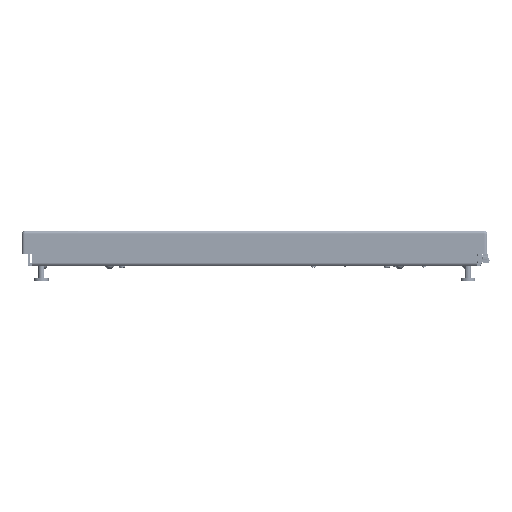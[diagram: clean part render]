
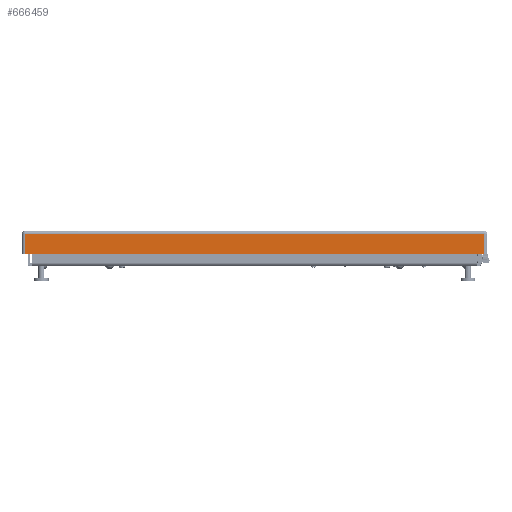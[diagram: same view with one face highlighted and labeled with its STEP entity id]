
A CAD part, top view. The second image highlights one B-rep face of the part: STEP entity #666459.
In plain terms, the highlighted planar face has unit normal (0, 0, 1) as drawn and (0, 0, -1) by its records, which use the part's own axes.
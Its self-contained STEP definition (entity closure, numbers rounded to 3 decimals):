
#44365 = CARTESIAN_POINT ( 'NONE',  ( -296.27, 0., -300. ) ) ;
#58600 = CARTESIAN_POINT ( 'NONE',  ( -296.27, 0.813, -300. ) ) ;
#96143 = CARTESIAN_POINT ( 'NONE',  ( 300., 0.813, -300. ) ) ;
#145138 = CARTESIAN_POINT ( 'NONE',  ( 296.27, 0., -300. ) ) ;
#165336 = CARTESIAN_POINT ( 'NONE',  ( 0., 26.437, -300. ) ) ;
#232735 = ORIENTED_EDGE ( 'NONE', *, *, #244323, .T. ) ;
#244323 = EDGE_CURVE ( 'NONE', #591195, #782561, #387114, .T. ) ;
#279421 = VECTOR ( 'NONE', #620184, 1000. ) ;
#283760 = ORIENTED_EDGE ( 'NONE', *, *, #637779, .F. ) ;
#306406 = VECTOR ( 'NONE', #787243, 1000. ) ;
#326697 = ORIENTED_EDGE ( 'NONE', *, *, #525921, .T. ) ;
#330334 = VERTEX_POINT ( 'NONE', #632013 ) ;
#345285 = DIRECTION ( 'NONE',  ( 0., 0., 1. ) ) ;
#349063 = DIRECTION ( 'NONE',  ( 1., 0., 0. ) ) ;
#362250 = VECTOR ( 'NONE', #699323, 1000. ) ;
#365374 = LINE ( 'NONE', #96143, #306406 ) ;
#367783 = VERTEX_POINT ( 'NONE', #384466 ) ;
#384466 = CARTESIAN_POINT ( 'NONE',  ( 296.27, 26.437, -300. ) ) ;
#386817 = CARTESIAN_POINT ( 'NONE',  ( 0., 0., -300. ) ) ;
#387114 = LINE ( 'NONE', #44365, #279421 ) ;
#421885 = VECTOR ( 'NONE', #349063, 1000. ) ;
#427232 = EDGE_CURVE ( 'NONE', #330334, #367783, #755269, .T. ) ;
#525921 = EDGE_CURVE ( 'NONE', #782561, #367783, #765918, .T. ) ;
#587079 = DIRECTION ( 'NONE',  ( 0., -1., 0. ) ) ;
#591195 = VERTEX_POINT ( 'NONE', #58600 ) ;
#620184 = DIRECTION ( 'NONE',  ( 0., 1., 0. ) ) ;
#623786 = ORIENTED_EDGE ( 'NONE', *, *, #427232, .F. ) ;
#632013 = CARTESIAN_POINT ( 'NONE',  ( 296.27, 0.813, -300. ) ) ;
#637779 = EDGE_CURVE ( 'NONE', #591195, #330334, #365374, .T. ) ;
#654842 = FACE_OUTER_BOUND ( 'NONE', #686411, .T. ) ;
#666459 = ADVANCED_FACE ( 'NONE', ( #654842 ), #762710, .F. ) ;
#674486 = CARTESIAN_POINT ( 'NONE',  ( -296.27, 26.437, -300. ) ) ;
#686411 = EDGE_LOOP ( 'NONE', ( #283760, #232735, #326697, #623786 ) ) ;
#699323 = DIRECTION ( 'NONE',  ( 0., 1., 0. ) ) ;
#755269 = LINE ( 'NONE', #145138, #362250 ) ;
#762710 = PLANE ( 'NONE',  #810266 ) ;
#765918 = LINE ( 'NONE', #165336, #421885 ) ;
#782561 = VERTEX_POINT ( 'NONE', #674486 ) ;
#787243 = DIRECTION ( 'NONE',  ( 1., 0., 0. ) ) ;
#810266 = AXIS2_PLACEMENT_3D ( 'NONE', #386817, #345285, #587079 ) ;
